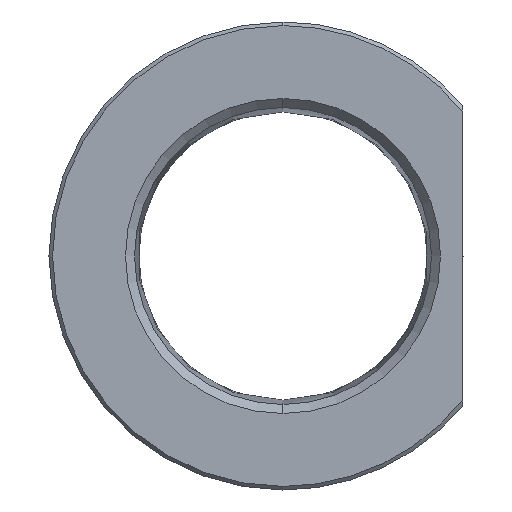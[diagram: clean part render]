
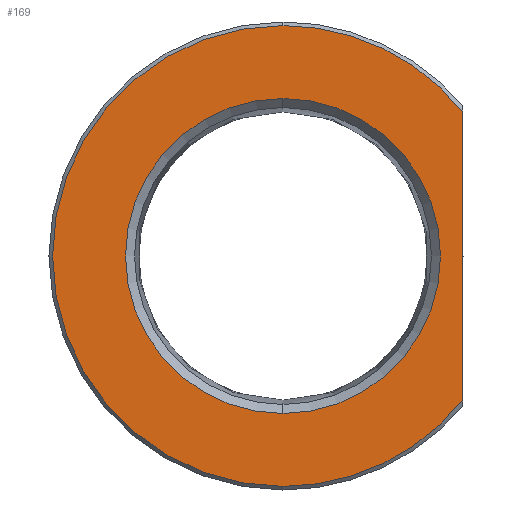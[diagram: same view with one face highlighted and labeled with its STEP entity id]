
A CAD part, front view. The second image highlights one B-rep face of the part: STEP entity #169.
In plain terms, the highlighted planar face has unit normal (0, -1, 0).
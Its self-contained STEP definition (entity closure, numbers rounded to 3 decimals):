
#6 = EDGE_CURVE ( 'NONE', #24, #71, #698, .T. ) ;
#24 = VERTEX_POINT ( 'NONE', #115 ) ;
#51 = AXIS2_PLACEMENT_3D ( 'NONE', #139, #521, #716 ) ;
#66 = PLANE ( 'NONE',  #470 ) ;
#71 = VERTEX_POINT ( 'NONE', #243 ) ;
#84 = CARTESIAN_POINT ( 'NONE',  ( 0., 0., 8.75 ) ) ;
#110 = VERTEX_POINT ( 'NONE', #238 ) ;
#115 = CARTESIAN_POINT ( 'NONE',  ( 10., 0., 7.99 ) ) ;
#121 = EDGE_CURVE ( 'NONE', #24, #110, #826, .T. ) ;
#139 = CARTESIAN_POINT ( 'NONE',  ( 0., 0., 0. ) ) ;
#145 = CIRCLE ( 'NONE', #617, 12.8 ) ;
#156 = CARTESIAN_POINT ( 'NONE',  ( 0., 0., -12.8 ) ) ;
#169 = ADVANCED_FACE ( 'NONE', ( #254, #196 ), #66, .T. ) ;
#190 = ORIENTED_EDGE ( 'NONE', *, *, #393, .T. ) ;
#196 = FACE_OUTER_BOUND ( 'NONE', #669, .T. ) ;
#238 = CARTESIAN_POINT ( 'NONE',  ( 0., 0., 12.8 ) ) ;
#243 = CARTESIAN_POINT ( 'NONE',  ( 10., 0., -7.99 ) ) ;
#246 = DIRECTION ( 'NONE',  ( 0., 0., -1. ) ) ;
#254 = FACE_BOUND ( 'NONE', #602, .T. ) ;
#292 = CARTESIAN_POINT ( 'NONE',  ( 10., 0., 8.307 ) ) ;
#326 = CARTESIAN_POINT ( 'NONE',  ( 0., 0., 0. ) ) ;
#343 = CIRCLE ( 'NONE', #677, 8.75 ) ;
#344 = EDGE_CURVE ( 'NONE', #636, #574, #343, .T. ) ;
#355 = CIRCLE ( 'NONE', #700, 8.75 ) ;
#358 = ORIENTED_EDGE ( 'NONE', *, *, #635, .T. ) ;
#375 = DIRECTION ( 'NONE',  ( 0., 0., -1. ) ) ;
#393 = EDGE_CURVE ( 'NONE', #574, #636, #355, .T. ) ;
#417 = CIRCLE ( 'NONE', #51, 12.8 ) ;
#470 = AXIS2_PLACEMENT_3D ( 'NONE', #762, #514, #375 ) ;
#492 = AXIS2_PLACEMENT_3D ( 'NONE', #504, #645, #246 ) ;
#504 = CARTESIAN_POINT ( 'NONE',  ( 0., 0., 0. ) ) ;
#514 = DIRECTION ( 'NONE',  ( 0., -1., 0. ) ) ;
#521 = DIRECTION ( 'NONE',  ( 0., -1., 0. ) ) ;
#524 = ORIENTED_EDGE ( 'NONE', *, *, #121, .T. ) ;
#529 = EDGE_CURVE ( 'NONE', #800, #71, #145, .T. ) ;
#543 = CARTESIAN_POINT ( 'NONE',  ( 0., 0., -8.75 ) ) ;
#545 = DIRECTION ( 'NONE',  ( 0., 1., 0. ) ) ;
#564 = ORIENTED_EDGE ( 'NONE', *, *, #529, .T. ) ;
#574 = VERTEX_POINT ( 'NONE', #84 ) ;
#582 = ORIENTED_EDGE ( 'NONE', *, *, #6, .F. ) ;
#600 = DIRECTION ( 'NONE',  ( 0., 0., -1. ) ) ;
#602 = EDGE_LOOP ( 'NONE', ( #790, #190 ) ) ;
#616 = DIRECTION ( 'NONE',  ( 0., 0., -1. ) ) ;
#617 = AXIS2_PLACEMENT_3D ( 'NONE', #781, #655, #600 ) ;
#635 = EDGE_CURVE ( 'NONE', #110, #800, #417, .T. ) ;
#636 = VERTEX_POINT ( 'NONE', #543 ) ;
#645 = DIRECTION ( 'NONE',  ( 0., -1., 0. ) ) ;
#655 = DIRECTION ( 'NONE',  ( 0., -1., 0. ) ) ;
#669 = EDGE_LOOP ( 'NONE', ( #582, #524, #358, #564 ) ) ;
#677 = AXIS2_PLACEMENT_3D ( 'NONE', #326, #792, #740 ) ;
#698 = LINE ( 'NONE', #292, #777 ) ;
#700 = AXIS2_PLACEMENT_3D ( 'NONE', #724, #545, #801 ) ;
#716 = DIRECTION ( 'NONE',  ( 0., 0., -1. ) ) ;
#724 = CARTESIAN_POINT ( 'NONE',  ( 0., 0., 0. ) ) ;
#740 = DIRECTION ( 'NONE',  ( 0., 0., -1. ) ) ;
#762 = CARTESIAN_POINT ( 'NONE',  ( -13., 0., 0. ) ) ;
#777 = VECTOR ( 'NONE', #616, 1000. ) ;
#781 = CARTESIAN_POINT ( 'NONE',  ( 0., 0., 0. ) ) ;
#790 = ORIENTED_EDGE ( 'NONE', *, *, #344, .T. ) ;
#792 = DIRECTION ( 'NONE',  ( 0., 1., 0. ) ) ;
#800 = VERTEX_POINT ( 'NONE', #156 ) ;
#801 = DIRECTION ( 'NONE',  ( 0., 0., -1. ) ) ;
#826 = CIRCLE ( 'NONE', #492, 12.8 ) ;
